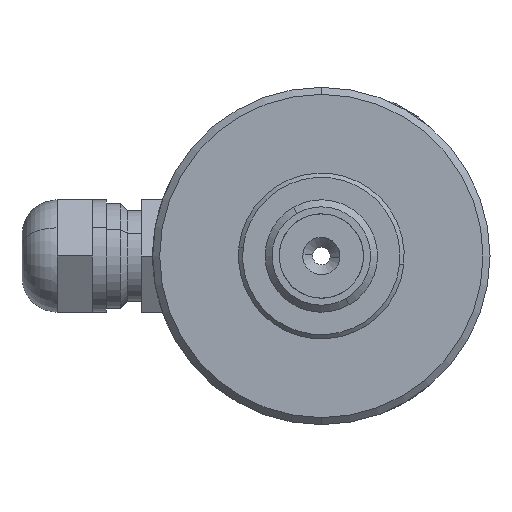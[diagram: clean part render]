
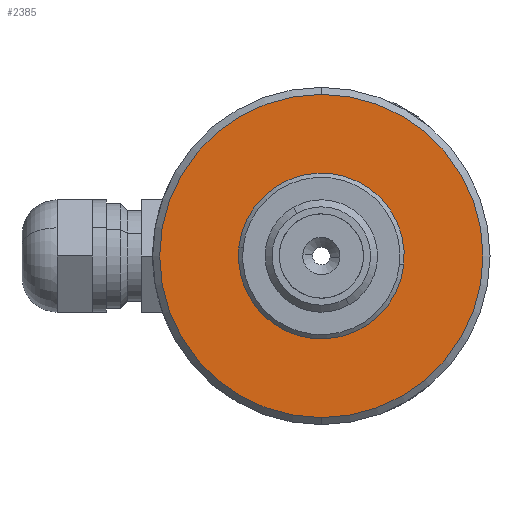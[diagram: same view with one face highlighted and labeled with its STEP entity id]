
A CAD part, left-side view. The second image highlights one B-rep face of the part: STEP entity #2385.
In plain terms, the highlighted planar face has unit normal (-1, 0, 0).
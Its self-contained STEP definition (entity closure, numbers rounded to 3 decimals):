
#88 = DIRECTION ( 'NONE',  ( 0., 0., -1. ) ) ;
#116 = DIRECTION ( 'NONE',  ( 1., 0., 0. ) ) ;
#138 = EDGE_LOOP ( 'NONE', ( #3741, #389 ) ) ;
#145 = FACE_BOUND ( 'NONE', #421, .T. ) ;
#169 = PLANE ( 'NONE',  #3995 ) ;
#211 = CARTESIAN_POINT ( 'NONE',  ( -25., 0., 0. ) ) ;
#389 = ORIENTED_EDGE ( 'NONE', *, *, #2666, .T. ) ;
#392 = AXIS2_PLACEMENT_3D ( 'NONE', #548, #541, #533 ) ;
#421 = EDGE_LOOP ( 'NONE', ( #1831, #1621 ) ) ;
#533 = DIRECTION ( 'NONE',  ( 0., 0., -1. ) ) ;
#541 = DIRECTION ( 'NONE',  ( 1., 0., 0. ) ) ;
#548 = CARTESIAN_POINT ( 'NONE',  ( -25., 0., 0. ) ) ;
#820 = DIRECTION ( 'NONE',  ( 0., 0., -1. ) ) ;
#837 = DIRECTION ( 'NONE',  ( -1., 0., 0. ) ) ;
#852 = CARTESIAN_POINT ( 'NONE',  ( -25., 0., 0. ) ) ;
#942 = EDGE_CURVE ( 'NONE', #3239, #2570, #1055, .T. ) ;
#1055 = CIRCLE ( 'NONE', #392, 5. ) ;
#1170 = DIRECTION ( 'NONE',  ( 0., 0., -1. ) ) ;
#1184 = DIRECTION ( 'NONE',  ( 1., 0., 0. ) ) ;
#1199 = CARTESIAN_POINT ( 'NONE',  ( -25., 0., 0. ) ) ;
#1315 = VERTEX_POINT ( 'NONE', #3779 ) ;
#1356 = CIRCLE ( 'NONE', #2322, 5. ) ;
#1362 = VERTEX_POINT ( 'NONE', #3537 ) ;
#1621 = ORIENTED_EDGE ( 'NONE', *, *, #3474, .T. ) ;
#1812 = CIRCLE ( 'NONE', #2213, 11.5 ) ;
#1831 = ORIENTED_EDGE ( 'NONE', *, *, #942, .T. ) ;
#2213 = AXIS2_PLACEMENT_3D ( 'NONE', #852, #837, #820 ) ;
#2322 = AXIS2_PLACEMENT_3D ( 'NONE', #1199, #1184, #1170 ) ;
#2385 = ADVANCED_FACE ( 'NONE', ( #3287, #145 ), #169, .F. ) ;
#2570 = VERTEX_POINT ( 'NONE', #4026 ) ;
#2643 = CIRCLE ( 'NONE', #3515, 11.5 ) ;
#2666 = EDGE_CURVE ( 'NONE', #1315, #1362, #2643, .T. ) ;
#3239 = VERTEX_POINT ( 'NONE', #3340 ) ;
#3287 = FACE_OUTER_BOUND ( 'NONE', #138, .T. ) ;
#3289 = DIRECTION ( 'NONE',  ( 0., 0., -1. ) ) ;
#3301 = DIRECTION ( 'NONE',  ( -1., 0., 0. ) ) ;
#3317 = CARTESIAN_POINT ( 'NONE',  ( -25., 0., 0. ) ) ;
#3340 = CARTESIAN_POINT ( 'NONE',  ( -25., 0., -5. ) ) ;
#3474 = EDGE_CURVE ( 'NONE', #2570, #3239, #1356, .T. ) ;
#3515 = AXIS2_PLACEMENT_3D ( 'NONE', #3317, #3301, #3289 ) ;
#3529 = EDGE_CURVE ( 'NONE', #1362, #1315, #1812, .T. ) ;
#3537 = CARTESIAN_POINT ( 'NONE',  ( -25., 0., -11.5 ) ) ;
#3741 = ORIENTED_EDGE ( 'NONE', *, *, #3529, .T. ) ;
#3779 = CARTESIAN_POINT ( 'NONE',  ( -25., 0., 11.5 ) ) ;
#3995 = AXIS2_PLACEMENT_3D ( 'NONE', #211, #116, #88 ) ;
#4026 = CARTESIAN_POINT ( 'NONE',  ( -25., 0., 5. ) ) ;
